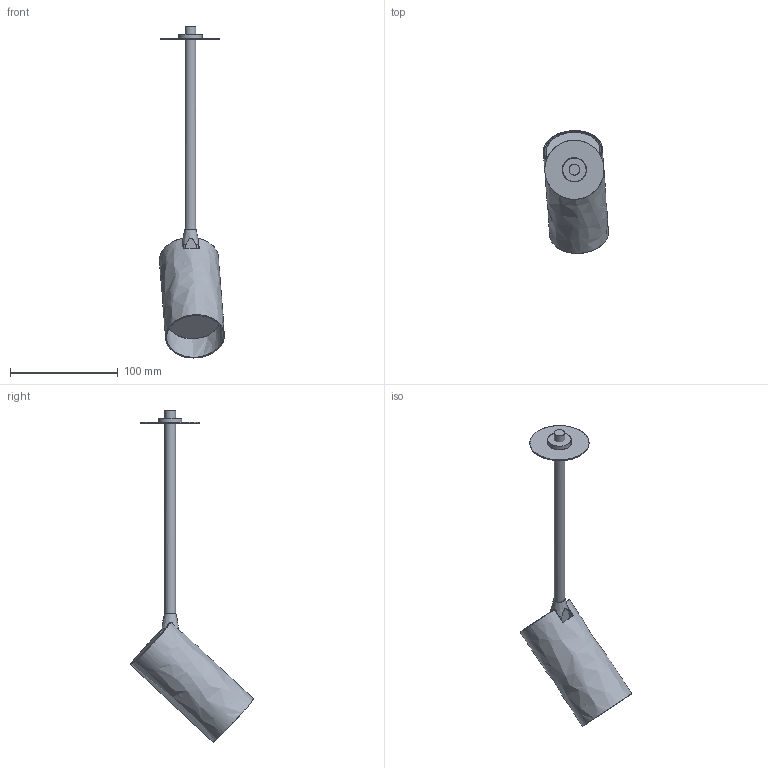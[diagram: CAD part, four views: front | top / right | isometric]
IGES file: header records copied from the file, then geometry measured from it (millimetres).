
Start section: SolidWorks IGES file using NURBS representation for surfaces
Global section: file name: Z:\Modele 3D_WWW\_KOLEKCJE_WWW\MONO\MONO-SURFACE-LONG\7741\MONO-SURFACE-LONG-I-S-BRASS-7741.IGS; native system: SolidWorks 2021; preprocessor: SolidWorks 2021; author: gabriela.tworek; date: 220125.121929; units: millimetre
Bounding box: 60.61 x 114.16 x 308.39 mm (x, y, z)
Surface area: 57051 mm2 (no closed solid volume)
Topology: 0 solids, 0 shells, 45 faces, 277 edges, 269 vertices
Faces by surface type: bspline 45
